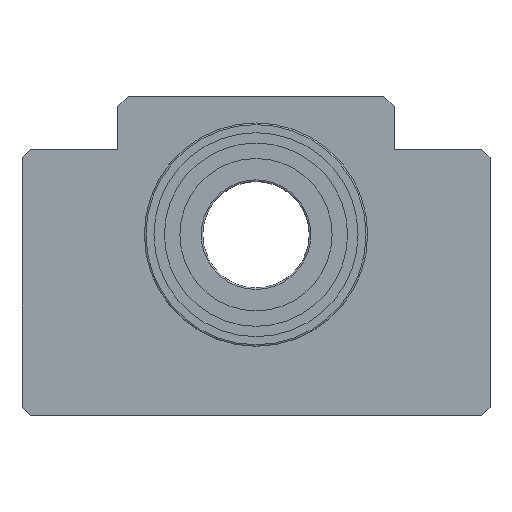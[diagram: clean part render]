
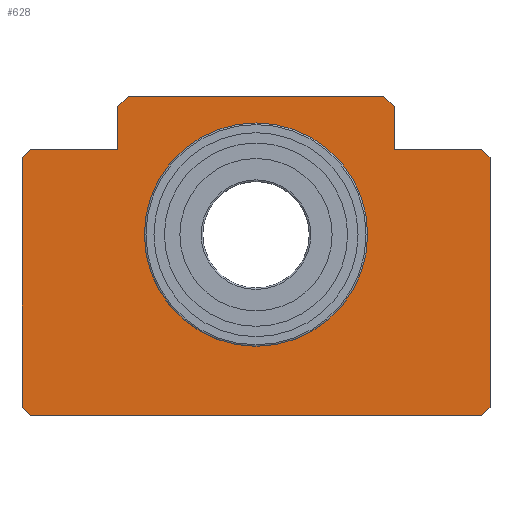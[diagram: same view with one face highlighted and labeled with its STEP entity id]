
A CAD part, top view. The second image highlights one B-rep face of the part: STEP entity #628.
In plain terms, the highlighted planar face has unit normal (0, 0, 1).
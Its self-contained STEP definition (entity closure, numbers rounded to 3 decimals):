
#52=CIRCLE('',#703,21.);
#152=ORIENTED_EDGE('',*,*,#268,.F.);
#153=ORIENTED_EDGE('',*,*,#221,.T.);
#154=ORIENTED_EDGE('',*,*,#225,.T.);
#155=ORIENTED_EDGE('',*,*,#230,.T.);
#156=ORIENTED_EDGE('',*,*,#233,.T.);
#157=ORIENTED_EDGE('',*,*,#236,.T.);
#158=ORIENTED_EDGE('',*,*,#239,.T.);
#159=ORIENTED_EDGE('',*,*,#243,.T.);
#160=ORIENTED_EDGE('',*,*,#246,.T.);
#161=ORIENTED_EDGE('',*,*,#249,.T.);
#162=ORIENTED_EDGE('',*,*,#252,.T.);
#163=ORIENTED_EDGE('',*,*,#255,.T.);
#164=ORIENTED_EDGE('',*,*,#258,.T.);
#165=ORIENTED_EDGE('',*,*,#262,.T.);
#166=ORIENTED_EDGE('',*,*,#265,.T.);
#221=EDGE_CURVE('',#293,#294,#351,.T.);
#225=EDGE_CURVE('',#294,#297,#355,.T.);
#230=EDGE_CURVE('',#297,#301,#358,.T.);
#233=EDGE_CURVE('',#301,#303,#361,.T.);
#236=EDGE_CURVE('',#303,#305,#364,.T.);
#239=EDGE_CURVE('',#305,#307,#367,.T.);
#243=EDGE_CURVE('',#307,#310,#370,.T.);
#246=EDGE_CURVE('',#310,#312,#373,.T.);
#249=EDGE_CURVE('',#312,#314,#376,.T.);
#252=EDGE_CURVE('',#314,#316,#379,.T.);
#255=EDGE_CURVE('',#316,#318,#382,.T.);
#258=EDGE_CURVE('',#318,#320,#385,.T.);
#262=EDGE_CURVE('',#320,#323,#388,.T.);
#265=EDGE_CURVE('',#323,#293,#391,.T.);
#268=EDGE_CURVE('',#326,#326,#52,.T.);
#293=VERTEX_POINT('',#954);
#294=VERTEX_POINT('',#955);
#297=VERTEX_POINT('',#963);
#301=VERTEX_POINT('',#973);
#303=VERTEX_POINT('',#979);
#305=VERTEX_POINT('',#985);
#307=VERTEX_POINT('',#991);
#310=VERTEX_POINT('',#999);
#312=VERTEX_POINT('',#1005);
#314=VERTEX_POINT('',#1011);
#316=VERTEX_POINT('',#1017);
#318=VERTEX_POINT('',#1023);
#320=VERTEX_POINT('',#1029);
#323=VERTEX_POINT('',#1037);
#326=VERTEX_POINT('',#1049);
#351=LINE('',#953,#393);
#355=LINE('',#962,#397);
#358=LINE('',#972,#400);
#361=LINE('',#978,#403);
#364=LINE('',#984,#406);
#367=LINE('',#990,#409);
#370=LINE('',#998,#412);
#373=LINE('',#1004,#415);
#376=LINE('',#1010,#418);
#379=LINE('',#1016,#421);
#382=LINE('',#1022,#424);
#385=LINE('',#1028,#427);
#388=LINE('',#1036,#430);
#391=LINE('',#1042,#433);
#393=VECTOR('',#761,1000.);
#397=VECTOR('',#767,1000.);
#400=VECTOR('',#776,1000.);
#403=VECTOR('',#781,1000.);
#406=VECTOR('',#786,1000.);
#409=VECTOR('',#791,1000.);
#412=VECTOR('',#798,1000.);
#415=VECTOR('',#803,1000.);
#418=VECTOR('',#808,1000.);
#421=VECTOR('',#813,1000.);
#424=VECTOR('',#818,1000.);
#427=VECTOR('',#823,1000.);
#430=VECTOR('',#830,1000.);
#433=VECTOR('',#835,1000.);
#455=EDGE_LOOP('',(#152));
#456=EDGE_LOOP('',(#153,#154,#155,#156,#157,#158,#159,#160,#161,#162,#163,
#164,#165,#166));
#531=FACE_BOUND('',#455,.T.);
#532=FACE_BOUND('',#456,.T.);
#602=PLANE('',#702);
#628=ADVANCED_FACE('',(#531,#532),#602,.T.);
#702=AXIS2_PLACEMENT_3D('',#1047,#841,#842);
#703=AXIS2_PLACEMENT_3D('',#1048,#843,#844);
#761=DIRECTION('',(0.,-1.,0.));
#767=DIRECTION('',(0.707,-0.707,0.));
#776=DIRECTION('',(1.,0.,0.));
#781=DIRECTION('',(0.707,0.707,0.));
#786=DIRECTION('',(0.,1.,0.));
#791=DIRECTION('',(-0.707,0.707,0.));
#798=DIRECTION('',(-1.,0.,0.));
#803=DIRECTION('',(0.,1.,0.));
#808=DIRECTION('',(-0.707,0.707,0.));
#813=DIRECTION('',(-1.,0.,0.));
#818=DIRECTION('',(-0.707,-0.707,0.));
#823=DIRECTION('',(0.,-1.,0.));
#830=DIRECTION('',(-1.,0.,0.));
#835=DIRECTION('',(-0.707,-0.707,0.));
#841=DIRECTION('',(0.,0.,1.));
#842=DIRECTION('',(1.,0.,0.));
#843=DIRECTION('',(0.,0.,1.));
#844=DIRECTION('',(1.,0.,0.));
#953=CARTESIAN_POINT('',(-44.,14.44,0.));
#954=CARTESIAN_POINT('',(-44.,14.44,0.));
#955=CARTESIAN_POINT('',(-44.,-32.44,0.));
#962=CARTESIAN_POINT('',(-44.,-32.44,0.));
#963=CARTESIAN_POINT('',(-42.44,-34.,0.));
#972=CARTESIAN_POINT('',(-42.44,-34.,0.));
#973=CARTESIAN_POINT('',(42.44,-34.,0.));
#978=CARTESIAN_POINT('',(42.44,-34.,0.));
#979=CARTESIAN_POINT('',(44.,-32.44,0.));
#984=CARTESIAN_POINT('',(44.,-32.44,0.));
#985=CARTESIAN_POINT('',(44.,14.44,0.));
#990=CARTESIAN_POINT('',(44.,14.44,0.));
#991=CARTESIAN_POINT('',(42.44,16.,0.));
#998=CARTESIAN_POINT('',(42.44,16.,0.));
#999=CARTESIAN_POINT('',(26.,16.,0.));
#1004=CARTESIAN_POINT('',(26.,16.,0.));
#1005=CARTESIAN_POINT('',(26.,24.,0.));
#1010=CARTESIAN_POINT('',(26.,24.,0.));
#1011=CARTESIAN_POINT('',(24.,26.,0.));
#1016=CARTESIAN_POINT('',(24.,26.,0.));
#1017=CARTESIAN_POINT('',(-24.,26.,0.));
#1022=CARTESIAN_POINT('',(-24.,26.,0.));
#1023=CARTESIAN_POINT('',(-26.,24.,0.));
#1028=CARTESIAN_POINT('',(-26.,24.,0.));
#1029=CARTESIAN_POINT('',(-26.,16.,0.));
#1036=CARTESIAN_POINT('',(-26.,16.,0.));
#1037=CARTESIAN_POINT('',(-42.44,16.,0.));
#1042=CARTESIAN_POINT('',(-42.44,16.,0.));
#1047=CARTESIAN_POINT('',(0.,0.,0.));
#1048=CARTESIAN_POINT('',(0.,0.,0.));
#1049=CARTESIAN_POINT('',(21.,0.,0.));
